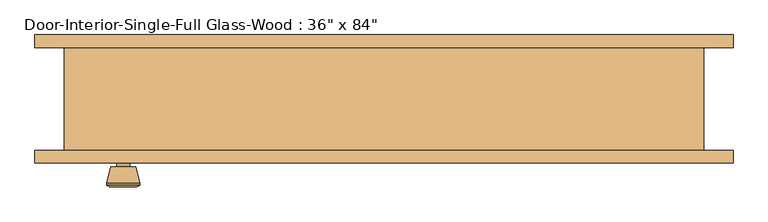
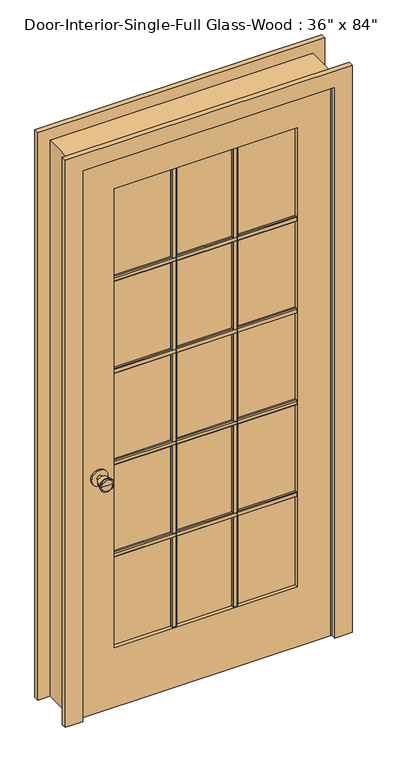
"""IFC4 building model written with IfcOpenShell, lengths in millimetres: door geometry."""

from ifc_helpers import new_model, si_unit, point, frame, frame_2d, origin, place, context, project, spatial, polyline, circle_curve, trimmed, segment, composite_curve, outline, extrude, faceted_brep, source, transform, mapped, element, save
from ifc_brep_helpers import plane_surface, cylinder_surface, revolved_surface, advanced_brep


def door_87dbb2e6(model_context):
    return source(origin(), model_context, "Body", "SolidModel", [
        extrude(outline(polyline([(-60.6425, 1667.51), (-60.6425, 1648.46), (-66.9925, 1648.46), (-70.1675, 1651.635), (-70.1675, 1664.335), (-66.9925, 1667.51), (-60.6425, 1667.51)])), frame((-336.55, 0.0, 0.0), z_axis=(1.0, 0.0, 0.0), x_axis=(0.0, 1.0, 0.0)), (0.0, 0.0, 1.0), 673.1),
        extrude(outline(polyline([(-60.6425, 1310.9575), (-60.6425, 1291.9075), (-66.9925, 1291.9075), (-70.1675, 1295.0825), (-70.1675, 1307.7825), (-66.9925, 1310.9575), (-60.6425, 1310.9575)])), frame((-336.55, 0.0, 0.0), z_axis=(1.0, 0.0, 0.0), x_axis=(0.0, 1.0, 0.0)), (0.0, 0.0, 1.0), 673.1),
        extrude(outline(polyline([(-60.6425, 954.405), (-60.6425, 935.355), (-66.9925, 935.355), (-70.1675, 938.53), (-70.1675, 951.23), (-66.9925, 954.405), (-60.6425, 954.405)])), frame((-336.55, 0.0, 0.0), z_axis=(1.0, 0.0, 0.0), x_axis=(0.0, 1.0, 0.0)), (0.0, 0.0, 1.0), 673.1),
        extrude(outline(polyline([(-60.6425, 597.8525), (-60.6425, 578.8025), (-66.9925, 578.8025), (-70.1675, 581.9775), (-70.1675, 594.6775), (-66.9925, 597.8525), (-60.6425, 597.8525)])), frame((-336.55, 0.0, 0.0), z_axis=(1.0, 0.0, 0.0), x_axis=(0.0, 1.0, 0.0)), (0.0, 0.0, 1.0), 673.1),
        extrude(outline(polyline([(102.6583333, -60.6425), (121.7083333, -60.6425), (121.7083333, -66.9925), (118.5333333, -70.1675), (105.8333333, -70.1675), (102.6583333, -66.9925), (102.6583333, -60.6425)])), frame((0.0, 0.0, 231.775), z_axis=(0.0, 0.0, 1.0), x_axis=(1.0, 0.0, 0.0)), (0.0, 0.0, 1.0), 1782.7625),
        extrude(outline(polyline([(-121.7083333, -60.6425), (-102.6583333, -60.6425), (-102.6583333, -66.9925), (-105.8333333, -70.1675), (-118.5333333, -70.1675), (-121.7083333, -66.9925), (-121.7083333, -60.6425)])), frame((0.0, 0.0, 231.775), z_axis=(0.0, 0.0, 1.0), x_axis=(1.0, 0.0, 0.0)), (0.0, 0.0, 1.0), 1782.7625),
        extrude(outline(polyline([(-53.6575, 1667.51), (-47.3075, 1667.51), (-44.1325, 1664.335), (-44.1325, 1651.635), (-47.3075, 1648.46), (-53.6575, 1648.46), (-53.6575, 1667.51)])), frame((-336.55, 0.0, 0.0), z_axis=(1.0, 0.0, 0.0), x_axis=(0.0, 1.0, 0.0)), (0.0, 0.0, 1.0), 673.1),
        extrude(outline(polyline([(-53.6575, 1310.9575), (-47.3075, 1310.9575), (-44.1325, 1307.7825), (-44.1325, 1295.0825), (-47.3075, 1291.9075), (-53.6575, 1291.9075), (-53.6575, 1310.9575)])), frame((-336.55, 0.0, 0.0), z_axis=(1.0, 0.0, 0.0), x_axis=(0.0, 1.0, 0.0)), (0.0, 0.0, 1.0), 673.1),
        extrude(outline(polyline([(-53.6575, 954.405), (-47.3075, 954.405), (-44.1325, 951.23), (-44.1325, 938.53), (-47.3075, 935.355), (-53.6575, 935.355), (-53.6575, 954.405)])), frame((-336.55, 0.0, 0.0), z_axis=(1.0, 0.0, 0.0), x_axis=(0.0, 1.0, 0.0)), (0.0, 0.0, 1.0), 673.1),
        extrude(outline(polyline([(-53.6575, 597.8525), (-47.3075, 597.8525), (-44.1325, 594.6775), (-44.1325, 581.9775), (-47.3075, 578.8025), (-53.6575, 578.8025), (-53.6575, 597.8525)])), frame((-336.55, 0.0, 0.0), z_axis=(1.0, 0.0, 0.0), x_axis=(0.0, 1.0, 0.0)), (0.0, 0.0, 1.0), 673.1),
        extrude(outline(polyline([(102.6583333, -53.6575), (102.6583333, -47.3075), (105.8333333, -44.1325), (118.5333333, -44.1325), (121.7083333, -47.3075), (121.7083333, -53.6575), (102.6583333, -53.6575)])), frame((0.0, 0.0, 231.775), z_axis=(0.0, 0.0, 1.0), x_axis=(1.0, 0.0, 0.0)), (0.0, 0.0, 1.0), 1782.7625),
        extrude(outline(polyline([(-121.7083333, -53.6575), (-121.7083333, -47.3075), (-118.5333333, -44.1325), (-105.8333333, -44.1325), (-102.6583333, -47.3075), (-102.6583333, -53.6575), (-121.7083333, -53.6575)])), frame((0.0, 0.0, 231.775), z_axis=(0.0, 0.0, 1.0), x_axis=(1.0, 0.0, 0.0)), (0.0, 0.0, 1.0), 1782.7625),
        advanced_brep(
        [(-393.7, -33.6875, 914.4), (-403.7, -33.6875, 914.4), (-383.7, -33.6875, 914.4), (-373.2241324, 15.3125, 914.4), (-414.1758676, 15.3125, 914.4), (-393.7, 15.3125, 914.4), (-368.7, 13.4846319, 914.4), (-418.7, 13.4846319, 914.4), (-368.7, 10.0209537, 914.4), (-418.7, 10.0209537, 914.4), (-375.063764, -14.6875, 914.4), (-412.336236, -14.6875, 914.4), (-383.7, -14.6875, 914.4), (-403.7, -14.6875, 914.4)],
        [
            (0, 1),
            (1, 2, circle_curve(frame((-393.7, -33.6875, 914.4), z_axis=(0.0, -1.0, 0.0), x_axis=(-1.0, 0.0, 0.0)), 10.0)),
            (2, 0),
            (2, 1, circle_curve(frame((-393.7, -33.6875, 914.4), z_axis=(0.0, -1.0, 0.0), x_axis=(-1.0, 0.0, 0.0)), 10.0)),
            (3, 4, circle_curve(frame((-393.7, 15.3125, 914.4), z_axis=(0.0, 1.0, 0.0), x_axis=(-1.0, 0.0, 0.0)), 20.4758676)),
            (4, 5),
            (5, 3),
            (4, 3, circle_curve(frame((-393.7, 15.3125, 914.4), z_axis=(0.0, 1.0, 0.0), x_axis=(-1.0, 0.0, 0.0)), 20.4758676)),
            (6, 7, circle_curve(frame((-393.7, 13.4846319, 914.4), z_axis=(0.0, 1.0, 0.0), x_axis=(-1.0, 0.0, 0.0)), 25.0)),
            (7, 4),
            (3, 6),
            (7, 6, circle_curve(frame((-393.7, 13.4846319, 914.4), z_axis=(0.0, 1.0, 0.0), x_axis=(-1.0, 0.0, 0.0)), 25.0)),
            (8, 9, circle_curve(frame((-393.7, 10.0209537, 914.4), z_axis=(0.0, 1.0, 0.0), x_axis=(-1.0, 0.0, 0.0)), 25.0)),
            (9, 7),
            (6, 8),
            (9, 8, circle_curve(frame((-393.7, 10.0209537, 914.4), z_axis=(0.0, 1.0, 0.0), x_axis=(-1.0, 0.0, 0.0)), 25.0)),
            (10, 11, circle_curve(frame((-393.7, -14.6875, 914.4), z_axis=(0.0, 1.0, 0.0), x_axis=(-1.0, 0.0, 0.0)), 18.636236)),
            (11, 9),
            (8, 10),
            (11, 10, circle_curve(frame((-393.7, -14.6875, 914.4), z_axis=(0.0, 1.0, 0.0), x_axis=(-1.0, 0.0, 0.0)), 18.636236)),
            (12, 13, circle_curve(frame((-393.7, -14.6875, 914.4), z_axis=(0.0, 1.0, 0.0), x_axis=(-1.0, 0.0, 0.0)), 10.0)),
            (13, 11),
            (10, 12),
            (13, 12, circle_curve(frame((-393.7, -14.6875, 914.4), z_axis=(0.0, 1.0, 0.0), x_axis=(-1.0, 0.0, 0.0)), 10.0)),
            (1, 13),
            (12, 2),
        ],
        [
            plane_surface(frame((-393.7, -33.6875, 914.4), z_axis=(0.0, -1.0, 0.0), x_axis=(-1.0, 0.0, 0.0))),
            plane_surface(frame((-393.7, 15.3125, 914.4), z_axis=(0.0, 1.0, 0.0), x_axis=(-1.0, 0.0, 0.0))),
            revolved_surface(polyline([(-414.1758676, 15.3125, 914.4), (-418.7, 13.4846319, 914.4)]), (-393.7, -33.6875, 914.4), (0.0, -1.0, 0.0)),
            cylinder_surface(frame((-393.7, -33.6875, 914.4), z_axis=(0.0, -1.0, 0.0), x_axis=(-1.0, 0.0, 0.0)), 25.0),
            revolved_surface(polyline([(-418.7, 10.0209537, 914.4), (-412.336236, -14.6875, 914.4)]), (-393.7, -33.6875, 914.4), (0.0, -1.0, 0.0)),
            plane_surface(frame((-393.7, -14.6875, 914.4), z_axis=(0.0, -1.0, 0.0), x_axis=(-1.0, 0.0, 0.0))),
            cylinder_surface(frame((-393.7, -33.6875, 914.4), z_axis=(0.0, -1.0, 0.0), x_axis=(-1.0, 0.0, 0.0)), 10.0),
        ],
        [
            (0, [[1, 2, 3]]),
            (0, [[-3, 4, -1]]),
            (1, [[5, 6, 7]]),
            (1, [[8, -7, -6]]),
            (2, [[9, 10, -5, 11]]),
            (2, [[12, -11, -8, -10]]),
            (3, [[13, 14, -9, 15]]),
            (3, [[16, -15, -12, -14]]),
            (4, [[17, 18, -13, 19]]),
            (4, [[20, -19, -16, -18]]),
            (5, [[21, 22, -17, 23]]),
            (5, [[24, -23, -20, -22]]),
            (6, [[-2, 25, -21, 26]]),
            (6, [[-4, -26, -24, -25]]),
        ],
    ),
        extrude(outline(composite_curve([segment(trimmed(circle_curve(frame_2d((914.4, -393.7)), 30.0), [point((914.4, -423.7))], [point((914.4, -363.7))], False, "CARTESIAN"), True, "CONTINUOUS"), segment(trimmed(circle_curve(frame_2d((914.4, -393.7)), 30.0), [point((914.4, -363.7))], [point((914.4, -423.7))], False, "CARTESIAN"), True, "CONTINUOUS")], self_intersect=False)), frame((0.0, -39.6875, 0.0), z_axis=(0.0, 1.0, 0.0), x_axis=(0.0, 0.0, 1.0)), (0.0, 0.0, 1.0), 6.0),
        advanced_brep(
        [(-393.7, -80.6125, 914.4), (-383.7, -80.6125, 914.4), (-403.7, -80.6125, 914.4), (-373.2241324, -129.6125, 914.4), (-393.7, -129.6125, 914.4), (-414.1758676, -129.6125, 914.4), (-368.7, -127.7846319, 914.4), (-418.7, -127.7846319, 914.4), (-368.7, -124.3209537, 914.4), (-418.7, -124.3209537, 914.4), (-375.063764, -99.6125, 914.4), (-412.336236, -99.6125, 914.4), (-383.7, -99.6125, 914.4), (-403.7, -99.6125, 914.4)],
        [
            (0, 1),
            (1, 2, circle_curve(frame((-393.7, -80.6125, 914.4), z_axis=(0.0, 1.0, 0.0), x_axis=(-1.0, 0.0, 0.0)), 10.0)),
            (2, 0),
            (2, 1, circle_curve(frame((-393.7, -80.6125, 914.4), z_axis=(0.0, 1.0, 0.0), x_axis=(-1.0, 0.0, 0.0)), 10.0)),
            (3, 4),
            (4, 5),
            (5, 3, circle_curve(frame((-393.7, -129.6125, 914.4), z_axis=(0.0, -1.0, 0.0), x_axis=(-1.0, 0.0, 0.0)), 20.4758676)),
            (3, 5, circle_curve(frame((-393.7, -129.6125, 914.4), z_axis=(0.0, -1.0, 0.0), x_axis=(-1.0, 0.0, 0.0)), 20.4758676)),
            (6, 3),
            (5, 7),
            (7, 6, circle_curve(frame((-393.7, -127.7846319, 914.4), z_axis=(0.0, -1.0, 0.0), x_axis=(-1.0, 0.0, 0.0)), 25.0)),
            (6, 7, circle_curve(frame((-393.7, -127.7846319, 914.4), z_axis=(0.0, -1.0, 0.0), x_axis=(-1.0, 0.0, 0.0)), 25.0)),
            (8, 6),
            (7, 9),
            (9, 8, circle_curve(frame((-393.7, -124.3209537, 914.4), z_axis=(0.0, -1.0, 0.0), x_axis=(-1.0, 0.0, 0.0)), 25.0)),
            (8, 9, circle_curve(frame((-393.7, -124.3209537, 914.4), z_axis=(0.0, -1.0, 0.0), x_axis=(-1.0, 0.0, 0.0)), 25.0)),
            (10, 8),
            (9, 11),
            (11, 10, circle_curve(frame((-393.7, -99.6125, 914.4), z_axis=(0.0, -1.0, 0.0), x_axis=(-1.0, 0.0, 0.0)), 18.636236)),
            (10, 11, circle_curve(frame((-393.7, -99.6125, 914.4), z_axis=(0.0, -1.0, 0.0), x_axis=(-1.0, 0.0, 0.0)), 18.636236)),
            (12, 10),
            (11, 13),
            (13, 12, circle_curve(frame((-393.7, -99.6125, 914.4), z_axis=(0.0, -1.0, 0.0), x_axis=(-1.0, 0.0, 0.0)), 10.0)),
            (12, 13, circle_curve(frame((-393.7, -99.6125, 914.4), z_axis=(0.0, -1.0, 0.0), x_axis=(-1.0, 0.0, 0.0)), 10.0)),
            (1, 12),
            (13, 2),
        ],
        [
            plane_surface(frame((-393.7, -80.6125, 914.4), z_axis=(0.0, 1.0, 0.0), x_axis=(-1.0, 0.0, 0.0))),
            plane_surface(frame((-393.7, -129.6125, 914.4), z_axis=(0.0, -1.0, 0.0), x_axis=(-1.0, 0.0, 0.0))),
            revolved_surface(polyline([(-414.1758676, -129.6125, 914.4), (-418.7, -127.7846319, 914.4)]), (-393.7, -80.6125, 914.4), (0.0, 1.0, 0.0)),
            cylinder_surface(frame((-393.7, -80.6125, 914.4), z_axis=(0.0, 1.0, 0.0), x_axis=(-1.0, 0.0, 0.0)), 25.0),
            revolved_surface(polyline([(-418.7, -124.3209537, 914.4), (-412.336236, -99.6125, 914.4)]), (-393.7, -80.6125, 914.4), (0.0, 1.0, 0.0)),
            plane_surface(frame((-393.7, -99.6125, 914.4), z_axis=(0.0, 1.0, 0.0), x_axis=(-1.0, 0.0, 0.0))),
            cylinder_surface(frame((-393.7, -80.6125, 914.4), z_axis=(0.0, 1.0, 0.0), x_axis=(-1.0, 0.0, 0.0)), 10.0),
        ],
        [
            (0, [[1, 2, 3]]),
            (0, [[-3, 4, -1]]),
            (1, [[5, 6, 7]]),
            (1, [[-6, -5, 8]]),
            (2, [[9, -7, 10, 11]]),
            (2, [[-10, -8, -9, 12]]),
            (3, [[13, -11, 14, 15]]),
            (3, [[-14, -12, -13, 16]]),
            (4, [[17, -15, 18, 19]]),
            (4, [[-18, -16, -17, 20]]),
            (5, [[21, -19, 22, 23]]),
            (5, [[-22, -20, -21, 24]]),
            (6, [[25, -23, 26, -2]]),
            (6, [[-26, -24, -25, -4]]),
        ],
    ),
        extrude(outline(composite_curve([segment(trimmed(circle_curve(frame_2d((914.4, -393.7)), 30.0), [point((914.4, -423.7))], [point((914.4, -363.7))], False, "CARTESIAN"), True, "CONTINUOUS"), segment(trimmed(circle_curve(frame_2d((914.4, -393.7)), 30.0), [point((914.4, -363.7))], [point((914.4, -423.7))], False, "CARTESIAN"), True, "CONTINUOUS")], self_intersect=False)), frame((0.0, -80.6125, 0.0), z_axis=(0.0, 1.0, 0.0), x_axis=(0.0, 0.0, 1.0)), (0.0, 0.0, 1.0), 6.0),
        extrude(outline(polyline([(2133.6, -457.2), (0.0, -457.2), (0.0, 457.2), (2133.6, 457.2), (2133.6, -457.2)]), holes=[polyline([(2014.5375, -336.55), (2014.5375, 336.55), (231.775, 336.55), (231.775, -336.55), (2014.5375, -336.55)])]), frame((0.0, -74.6125, 0.0), z_axis=(0.0, 1.0, 0.0), x_axis=(0.0, 0.0, 1.0)), (0.0, 0.0, 1.0), 34.925),
        faceted_brep([(482.6, -74.6125, 0.0), (457.2, -74.6125, 0.0), (457.2, -39.6875, 0.0), (444.5, -39.6875, 0.0), (444.5, -4.7625, 0.0), (457.2, -4.7625, 0.0), (457.2, 80.9625, 0.0), (482.6, 80.9625, 0.0), (482.6, 80.9625, 2159.0), (482.6, -74.6125, 2159.0), (457.2, 80.9625, 2133.6), (-457.2, 80.9625, 2133.6), (-457.2, 80.9625, 0.0), (-482.6, 80.9625, 0.0), (-482.6, 80.9625, 2159.0), (457.2, -4.7625, 2133.6), (444.5, -4.7625, 2120.9), (-444.5, -4.7625, 2120.9), (-444.5, -4.7625, 0.0), (-457.2, -4.7625, 0.0), (-457.2, -4.7625, 2133.6), (444.5, -39.6875, 2120.9), (457.2, -39.6875, 2133.6), (-457.2, -39.6875, 2133.6), (-457.2, -39.6875, 0.0), (-444.5, -39.6875, 0.0), (-444.5, -39.6875, 2120.9), (457.2, -74.6125, 2133.6), (-482.6, -74.6125, 2159.0), (-482.6, -74.6125, 0.0), (-457.2, -74.6125, 0.0), (-457.2, -74.6125, 2133.6)], [[[0, 1, 2, 3, 4, 5, 6, 7]], [[7, 8, 9, 0]], [[6, 10, 11, 12, 13, 14, 8, 7]], [[5, 15, 10, 6]], [[4, 16, 17, 18, 19, 20, 15, 5]], [[3, 21, 16, 4]], [[2, 22, 23, 24, 25, 26, 21, 3]], [[1, 27, 22, 2]], [[0, 9, 28, 29, 30, 31, 27, 1]], [[8, 14, 28, 9]], [[15, 20, 11, 10]], [[21, 26, 17, 16]], [[27, 31, 23, 22]], [[29, 13, 12, 19, 18, 25, 24, 30]], [[14, 13, 29, 28]], [[20, 19, 12, 11]], [[26, 25, 18, 17]], [[31, 30, 24, 23]]]),
        extrude(outline(polyline([(336.55, -53.6575), (336.55, -60.6425), (-336.55, -60.6425), (-336.55, -53.6575), (336.55, -53.6575)])), frame((0.0, 0.0, 231.775), z_axis=(0.0, 0.0, 1.0), x_axis=(1.0, 0.0, 0.0)), (0.0, 0.0, 1.0), 1782.7625),
        extrude(outline(polyline([(0.0, 527.05), (2203.45, 527.05), (2203.45, -527.05), (0.0, -527.05), (0.0, -463.55), (2139.95, -463.55), (2139.95, 463.55), (0.0, 463.55), (0.0, 527.05)])), frame((0.0, 80.9625, 0.0), z_axis=(0.0, 1.0, 0.0), x_axis=(0.0, 0.0, 1.0)), (0.0, 0.0, 1.0), 19.05),
        extrude(outline(polyline([(0.0, 527.05), (2203.45, 527.05), (2203.45, -527.05), (0.0, -527.05), (0.0, -463.55), (2139.95, -463.55), (2139.95, 463.55), (0.0, 463.55), (0.0, 527.05)])), frame((0.0, -93.6625, 0.0), z_axis=(0.0, 1.0, 0.0), x_axis=(0.0, 0.0, 1.0)), (0.0, 0.0, 1.0), 19.05),
    ])


if __name__ == "__main__":
    model = new_model("IFC4")
    model_context = context("Model", 3, world=origin())
    ifc_project = project(units=[si_unit("LENGTHUNIT", "METRE", prefix="MILLI")], contexts=[model_context])
    site = spatial("IfcSite", under=ifc_project)
    building = spatial("IfcBuilding", under=site)
    placement = place(None, origin())
    door_shape = door_87dbb2e6(model_context)
    element("IfcDoor", 1, ObjectType="Door-Interior-Single-Full Glass-Wood : 36\" x 84\"", at=placement, inside=building, context=model_context, shape_type="MappedRepresentation", body=[
        mapped(door_shape, transform((0.0, 0.0, 0.0), x_axis=(1.0, 0.0, 0.0), y_axis=(0.0, 1.0, 0.0), z_axis=(0.0, 0.0, 1.0))),
    ])
    save(model, "model.ifc")
